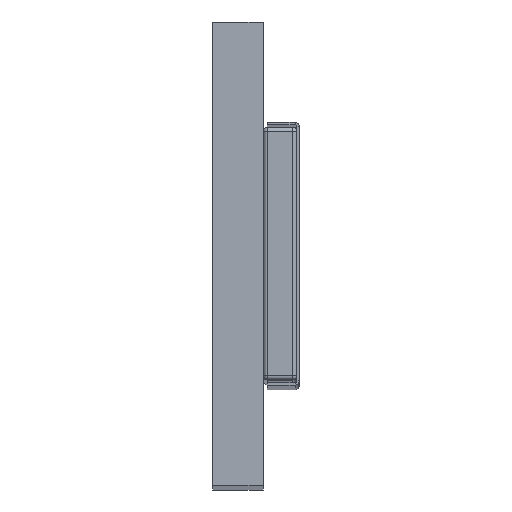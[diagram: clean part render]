
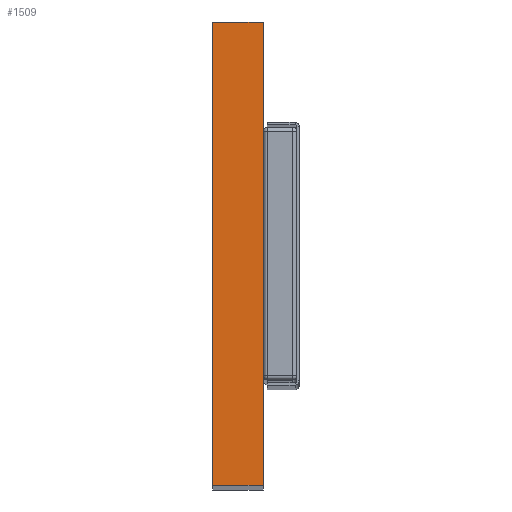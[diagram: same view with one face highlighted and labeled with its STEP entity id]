
A CAD part, top view. The second image highlights one B-rep face of the part: STEP entity #1509.
In plain terms, the highlighted planar face has unit normal (0, 0, 1).
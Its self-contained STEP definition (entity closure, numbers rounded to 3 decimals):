
#154 = LINE ( 'NONE', #4231, #4101 ) ;
#220 = VERTEX_POINT ( 'NONE', #3157 ) ;
#262 = VECTOR ( 'NONE', #2487, 1000. ) ;
#420 = DIRECTION ( 'NONE',  ( 1., 0., 0. ) ) ;
#452 = CARTESIAN_POINT ( 'NONE',  ( 0., 55., 320. ) ) ;
#485 = ORIENTED_EDGE ( 'NONE', *, *, #1867, .T. ) ;
#578 = AXIS2_PLACEMENT_3D ( 'NONE', #4826, #3758, #3818 ) ;
#610 = PLANE ( 'NONE',  #578 ) ;
#662 = CARTESIAN_POINT ( 'NONE',  ( 0., 0., 320. ) ) ;
#774 = VERTEX_POINT ( 'NONE', #3014 ) ;
#826 = VERTEX_POINT ( 'NONE', #2644 ) ;
#1242 = EDGE_LOOP ( 'NONE', ( #1680, #485, #3031, #4424 ) ) ;
#1262 = CARTESIAN_POINT ( 'NONE',  ( 6., 0., 320. ) ) ;
#1377 = EDGE_CURVE ( 'NONE', #826, #220, #2744, .T. ) ;
#1509 = ADVANCED_FACE ( 'NONE', ( #4455 ), #610, .F. ) ;
#1680 = ORIENTED_EDGE ( 'NONE', *, *, #2444, .T. ) ;
#1735 = VECTOR ( 'NONE', #3114, 1000. ) ;
#1867 = EDGE_CURVE ( 'NONE', #774, #1978, #154, .T. ) ;
#1978 = VERTEX_POINT ( 'NONE', #1262 ) ;
#2399 = LINE ( 'NONE', #4410, #262 ) ;
#2444 = EDGE_CURVE ( 'NONE', #220, #774, #2465, .T. ) ;
#2465 = LINE ( 'NONE', #662, #3617 ) ;
#2487 = DIRECTION ( 'NONE',  ( 0., 1., 0. ) ) ;
#2644 = CARTESIAN_POINT ( 'NONE',  ( 6., 55., 320. ) ) ;
#2744 = LINE ( 'NONE', #452, #1735 ) ;
#2938 = DIRECTION ( 'NONE',  ( 0., -1., 0. ) ) ;
#3014 = CARTESIAN_POINT ( 'NONE',  ( 0., 0., 320. ) ) ;
#3031 = ORIENTED_EDGE ( 'NONE', *, *, #3267, .T. ) ;
#3114 = DIRECTION ( 'NONE',  ( -1., 0., 0. ) ) ;
#3157 = CARTESIAN_POINT ( 'NONE',  ( 0., 55., 320. ) ) ;
#3267 = EDGE_CURVE ( 'NONE', #1978, #826, #2399, .T. ) ;
#3617 = VECTOR ( 'NONE', #2938, 1000. ) ;
#3758 = DIRECTION ( 'NONE',  ( 0., 0., -1. ) ) ;
#3818 = DIRECTION ( 'NONE',  ( -1., 0., 0. ) ) ;
#4101 = VECTOR ( 'NONE', #420, 1000. ) ;
#4231 = CARTESIAN_POINT ( 'NONE',  ( 0., 0., 320. ) ) ;
#4410 = CARTESIAN_POINT ( 'NONE',  ( 6., 0., 320. ) ) ;
#4424 = ORIENTED_EDGE ( 'NONE', *, *, #1377, .T. ) ;
#4455 = FACE_OUTER_BOUND ( 'NONE', #1242, .T. ) ;
#4826 = CARTESIAN_POINT ( 'NONE',  ( 0., 0., 320. ) ) ;
